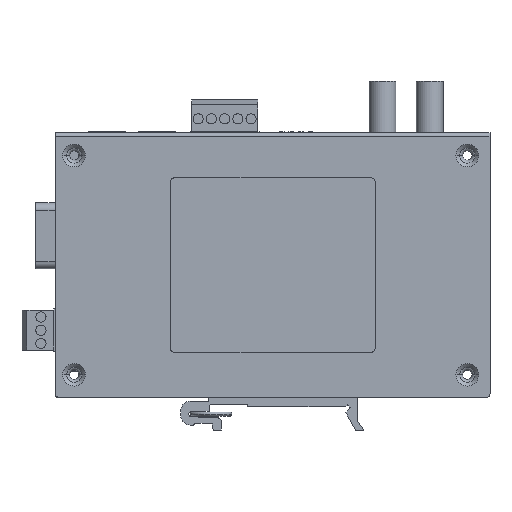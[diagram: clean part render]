
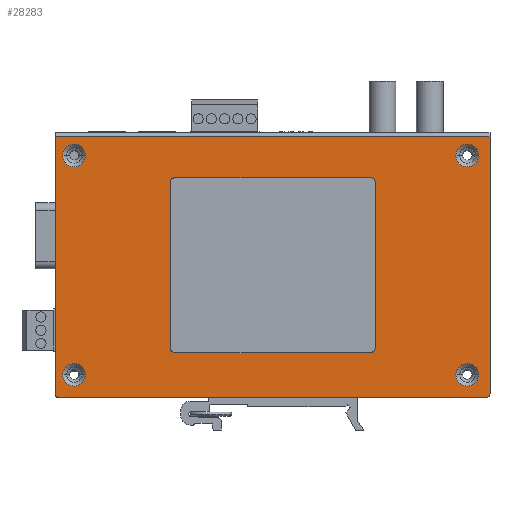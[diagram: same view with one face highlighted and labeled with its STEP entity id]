
A CAD part, left-side view. The second image highlights one B-rep face of the part: STEP entity #28283.
In plain terms, the highlighted planar face has unit normal (-1, 0, 0).
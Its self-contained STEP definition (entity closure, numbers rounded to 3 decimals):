
#8584=DIRECTION('',(0.,-1.,0.));
#8585=VECTOR('',#8584,113.);
#8586=CARTESIAN_POINT('',(-22.4,55.8,-36.8));
#8587=LINE('',#8586,#8585);
#8588=CARTESIAN_POINT('',(-22.4,55.8,-35.8));
#8589=DIRECTION('',(-1.,0.,0.));
#8590=DIRECTION('',(0.,1.,0.));
#8591=AXIS2_PLACEMENT_3D('',#8588,#8589,#8590);
#8593=DIRECTION('',(0.,0.,-1.));
#8594=VECTOR('',#8593,68.);
#8595=CARTESIAN_POINT('',(-22.4,56.8,32.2));
#8596=LINE('',#8595,#8594);
#8597=DIRECTION('',(0.,0.,1.));
#8598=VECTOR('',#8597,68.);
#8599=CARTESIAN_POINT('',(-22.4,-58.2,-35.8));
#8600=LINE('',#8599,#8598);
#8601=CARTESIAN_POINT('',(-22.4,-57.2,-35.8));
#8602=DIRECTION('',(-1.,0.,0.));
#8603=DIRECTION('',(0.,0.,-1.));
#8604=AXIS2_PLACEMENT_3D('',#8601,#8602,#8603);
#8606=CARTESIAN_POINT('',(-22.4,51.8,-30.8));
#8607=DIRECTION('',(1.,0.,0.));
#8608=DIRECTION('',(0.,1.,0.));
#8609=AXIS2_PLACEMENT_3D('',#8606,#8607,#8608);
#8611=CARTESIAN_POINT('',(-22.4,51.8,-30.8));
#8612=DIRECTION('',(1.,0.,0.));
#8613=DIRECTION('',(0.,-1.,0.));
#8614=AXIS2_PLACEMENT_3D('',#8611,#8612,#8613);
#8616=CARTESIAN_POINT('',(-22.4,51.8,27.2));
#8617=DIRECTION('',(1.,0.,0.));
#8618=DIRECTION('',(0.,1.,0.));
#8619=AXIS2_PLACEMENT_3D('',#8616,#8617,#8618);
#8621=CARTESIAN_POINT('',(-22.4,51.8,27.2));
#8622=DIRECTION('',(1.,0.,0.));
#8623=DIRECTION('',(0.,-1.,0.));
#8624=AXIS2_PLACEMENT_3D('',#8621,#8622,#8623);
#8626=CARTESIAN_POINT('',(-22.4,-52.2,27.2));
#8627=DIRECTION('',(1.,0.,0.));
#8628=DIRECTION('',(0.,1.,0.));
#8629=AXIS2_PLACEMENT_3D('',#8626,#8627,#8628);
#8631=CARTESIAN_POINT('',(-22.4,-52.2,27.2));
#8632=DIRECTION('',(1.,0.,0.));
#8633=DIRECTION('',(0.,-1.,0.));
#8634=AXIS2_PLACEMENT_3D('',#8631,#8632,#8633);
#8636=CARTESIAN_POINT('',(-22.4,-52.2,-30.8));
#8637=DIRECTION('',(1.,0.,0.));
#8638=DIRECTION('',(0.,1.,0.));
#8639=AXIS2_PLACEMENT_3D('',#8636,#8637,#8638);
#8641=CARTESIAN_POINT('',(-22.4,-52.2,-30.8));
#8642=DIRECTION('',(1.,0.,0.));
#8643=DIRECTION('',(0.,-1.,0.));
#8644=AXIS2_PLACEMENT_3D('',#8641,#8642,#8643);
#8646=CARTESIAN_POINT('',(-22.4,-26.6,20.1));
#8647=DIRECTION('',(1.,0.,0.));
#8648=DIRECTION('',(0.,0.,1.));
#8649=AXIS2_PLACEMENT_3D('',#8646,#8647,#8648);
#8651=DIRECTION('',(0.,-1.,0.));
#8652=VECTOR('',#8651,51.8);
#8653=CARTESIAN_POINT('',(-22.4,25.2,21.3));
#8654=LINE('',#8653,#8652);
#8655=CARTESIAN_POINT('',(-22.4,25.2,20.1));
#8656=DIRECTION('',(1.,0.,0.));
#8657=DIRECTION('',(0.,1.,0.));
#8658=AXIS2_PLACEMENT_3D('',#8655,#8656,#8657);
#8660=DIRECTION('',(0.,0.,1.));
#8661=VECTOR('',#8660,43.8);
#8662=CARTESIAN_POINT('',(-22.4,26.4,-23.7));
#8663=LINE('',#8662,#8661);
#8664=CARTESIAN_POINT('',(-22.4,25.2,-23.7));
#8665=DIRECTION('',(1.,0.,0.));
#8666=DIRECTION('',(0.,0.,-1.));
#8667=AXIS2_PLACEMENT_3D('',#8664,#8665,#8666);
#8669=DIRECTION('',(0.,1.,0.));
#8670=VECTOR('',#8669,51.8);
#8671=CARTESIAN_POINT('',(-22.4,-26.6,-24.9));
#8672=LINE('',#8671,#8670);
#8673=CARTESIAN_POINT('',(-22.4,-26.6,-23.7));
#8674=DIRECTION('',(1.,0.,0.));
#8675=DIRECTION('',(0.,-1.,0.));
#8676=AXIS2_PLACEMENT_3D('',#8673,#8674,#8675);
#8678=DIRECTION('',(0.,0.,-1.));
#8679=VECTOR('',#8678,43.8);
#8680=CARTESIAN_POINT('',(-22.4,-27.8,20.1));
#8681=LINE('',#8680,#8679);
#8682=DIRECTION('',(0.,-1.,0.));
#8683=VECTOR('',#8682,115.);
#8684=CARTESIAN_POINT('',(-22.4,56.8,32.2));
#8685=LINE('',#8684,#8683);
#15408=CARTESIAN_POINT('',(-22.4,-58.2,32.2));
#15409=VERTEX_POINT('',#15408);
#15418=CARTESIAN_POINT('',(-22.4,55.8,-36.8));
#15419=CARTESIAN_POINT('',(-22.4,-57.2,-36.8));
#15420=VERTEX_POINT('',#15418);
#15421=VERTEX_POINT('',#15419);
#15422=CARTESIAN_POINT('',(-22.4,56.8,32.2));
#15423=VERTEX_POINT('',#15422);
#15428=CARTESIAN_POINT('',(-22.4,54.8,-30.8));
#15429=CARTESIAN_POINT('',(-22.4,48.8,-30.8));
#15430=VERTEX_POINT('',#15428);
#15431=VERTEX_POINT('',#15429);
#15432=CARTESIAN_POINT('',(-22.4,-58.2,-35.8));
#15433=VERTEX_POINT('',#15432);
#15434=CARTESIAN_POINT('',(-22.4,56.8,-35.8));
#15435=VERTEX_POINT('',#15434);
#15454=CARTESIAN_POINT('',(-22.4,54.8,27.2));
#15455=CARTESIAN_POINT('',(-22.4,48.8,27.2));
#15456=VERTEX_POINT('',#15454);
#15457=VERTEX_POINT('',#15455);
#15476=CARTESIAN_POINT('',(-22.4,-49.2,27.2));
#15477=CARTESIAN_POINT('',(-22.4,-55.2,27.2));
#15478=VERTEX_POINT('',#15476);
#15479=VERTEX_POINT('',#15477);
#15496=CARTESIAN_POINT('',(-22.4,-49.2,-30.8));
#15497=CARTESIAN_POINT('',(-22.4,-55.2,-30.8));
#15498=VERTEX_POINT('',#15496);
#15499=VERTEX_POINT('',#15497);
#15524=CARTESIAN_POINT('',(-22.4,-26.6,21.3));
#15525=CARTESIAN_POINT('',(-22.4,-27.8,20.1));
#15526=VERTEX_POINT('',#15524);
#15527=VERTEX_POINT('',#15525);
#15550=CARTESIAN_POINT('',(-22.4,-27.8,-23.7));
#15551=VERTEX_POINT('',#15550);
#15552=CARTESIAN_POINT('',(-22.4,25.2,21.3));
#15553=VERTEX_POINT('',#15552);
#15578=CARTESIAN_POINT('',(-22.4,-26.6,-24.9));
#15579=VERTEX_POINT('',#15578);
#15580=CARTESIAN_POINT('',(-22.4,26.4,20.1));
#15581=VERTEX_POINT('',#15580);
#15606=CARTESIAN_POINT('',(-22.4,25.2,-24.9));
#15607=VERTEX_POINT('',#15606);
#15610=CARTESIAN_POINT('',(-22.4,26.4,-23.7));
#15611=VERTEX_POINT('',#15610);
#28227=CARTESIAN_POINT('',(-22.4,-58.2,32.2));
#28228=DIRECTION('',(1.,0.,0.));
#28229=DIRECTION('',(0.,-1.,0.));
#28230=AXIS2_PLACEMENT_3D('',#28227,#28228,#28229);
#28231=PLANE('',#28230);
#28232=ORIENTED_EDGE('',*,*,#20693,.F.);
#28233=ORIENTED_EDGE('',*,*,#28221,.F.);
#28234=ORIENTED_EDGE('',*,*,#19283,.F.);
#28236=ORIENTED_EDGE('',*,*,#28235,.T.);
#28237=ORIENTED_EDGE('',*,*,#20134,.F.);
#28238=ORIENTED_EDGE('',*,*,#20668,.F.);
#28239=EDGE_LOOP('',(#28232,#28233,#28234,#28236,#28237,#28238));
#28240=FACE_OUTER_BOUND('',#28239,.F.);
#28242=ORIENTED_EDGE('',*,*,#28241,.F.);
#28244=ORIENTED_EDGE('',*,*,#28243,.F.);
#28245=EDGE_LOOP('',(#28242,#28244));
#28246=FACE_BOUND('',#28245,.F.);
#28248=ORIENTED_EDGE('',*,*,#28247,.F.);
#28250=ORIENTED_EDGE('',*,*,#28249,.F.);
#28251=EDGE_LOOP('',(#28248,#28250));
#28252=FACE_BOUND('',#28251,.F.);
#28254=ORIENTED_EDGE('',*,*,#28253,.F.);
#28256=ORIENTED_EDGE('',*,*,#28255,.F.);
#28257=EDGE_LOOP('',(#28254,#28256));
#28258=FACE_BOUND('',#28257,.F.);
#28260=ORIENTED_EDGE('',*,*,#28259,.F.);
#28262=ORIENTED_EDGE('',*,*,#28261,.F.);
#28263=EDGE_LOOP('',(#28260,#28262));
#28264=FACE_BOUND('',#28263,.F.);
#28266=ORIENTED_EDGE('',*,*,#28265,.F.);
#28268=ORIENTED_EDGE('',*,*,#28267,.F.);
#28270=ORIENTED_EDGE('',*,*,#28269,.F.);
#28272=ORIENTED_EDGE('',*,*,#28271,.F.);
#28274=ORIENTED_EDGE('',*,*,#28273,.F.);
#28276=ORIENTED_EDGE('',*,*,#28275,.F.);
#28278=ORIENTED_EDGE('',*,*,#28277,.F.);
#28280=ORIENTED_EDGE('',*,*,#28279,.F.);
#28281=EDGE_LOOP('',(#28266,#28268,#28270,#28272,#28274,#28276,#28278,#28280));
#28282=FACE_BOUND('',#28281,.F.);
#28283=ADVANCED_FACE('',(#28240,#28246,#28252,#28258,#28264,#28282),#28231,.F.);
#8592=CIRCLE('',#8591,1.);
#8605=CIRCLE('',#8604,1.);
#8610=CIRCLE('',#8609,3.);
#8615=CIRCLE('',#8614,3.);
#8620=CIRCLE('',#8619,3.);
#8625=CIRCLE('',#8624,3.);
#8630=CIRCLE('',#8629,3.);
#8635=CIRCLE('',#8634,3.);
#8640=CIRCLE('',#8639,3.);
#8645=CIRCLE('',#8644,3.);
#8650=CIRCLE('',#8649,1.2);
#8659=CIRCLE('',#8658,1.2);
#8668=CIRCLE('',#8667,1.2);
#8677=CIRCLE('',#8676,1.2);
#19283=EDGE_CURVE('',#15423,#15435,#8596,.T.);
#20134=EDGE_CURVE('',#15433,#15409,#8600,.T.);
#20668=EDGE_CURVE('',#15421,#15433,#8605,.T.);
#20693=EDGE_CURVE('',#15420,#15421,#8587,.T.);
#28221=EDGE_CURVE('',#15435,#15420,#8592,.T.);
#28235=EDGE_CURVE('',#15423,#15409,#8685,.T.);
#28241=EDGE_CURVE('',#15430,#15431,#8610,.T.);
#28243=EDGE_CURVE('',#15431,#15430,#8615,.T.);
#28247=EDGE_CURVE('',#15456,#15457,#8620,.T.);
#28249=EDGE_CURVE('',#15457,#15456,#8625,.T.);
#28253=EDGE_CURVE('',#15478,#15479,#8630,.T.);
#28255=EDGE_CURVE('',#15479,#15478,#8635,.T.);
#28259=EDGE_CURVE('',#15498,#15499,#8640,.T.);
#28261=EDGE_CURVE('',#15499,#15498,#8645,.T.);
#28265=EDGE_CURVE('',#15526,#15527,#8650,.T.);
#28267=EDGE_CURVE('',#15553,#15526,#8654,.T.);
#28269=EDGE_CURVE('',#15581,#15553,#8659,.T.);
#28271=EDGE_CURVE('',#15611,#15581,#8663,.T.);
#28273=EDGE_CURVE('',#15607,#15611,#8668,.T.);
#28275=EDGE_CURVE('',#15579,#15607,#8672,.T.);
#28277=EDGE_CURVE('',#15551,#15579,#8677,.T.);
#28279=EDGE_CURVE('',#15527,#15551,#8681,.T.);
